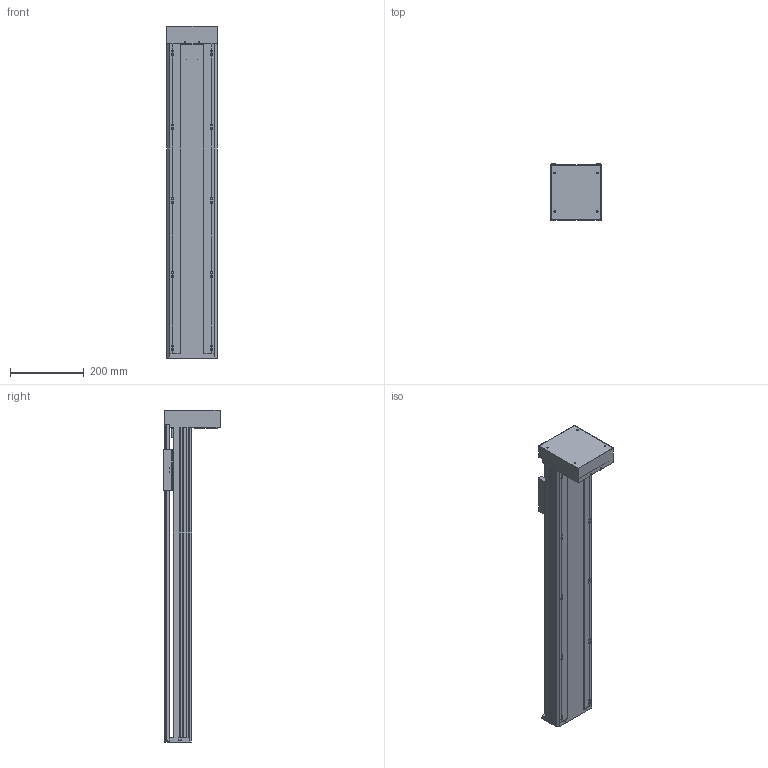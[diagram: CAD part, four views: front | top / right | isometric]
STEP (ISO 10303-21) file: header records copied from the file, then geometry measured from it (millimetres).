
FILE_DESCRIPTION(/* description */ (''),/* implementation_level */ '2;1');
FILE_NAME(/* name */ 'TKA136-FD-650_asm1.stp',/* time_stamp */ '2016-05-07T09:32:43+08:00',/* author */ (''),/* organization */ (''),/* preprocessor_version */ 'ST-DEVELOPER v15',/* originating_system */ 'SIEMENS PLM Software NX 8.5',/* authorisation */ '');
FILE_SCHEMA (('AUTOMOTIVE_DESIGN { 1 0 10303 214 3 1 1 1 }'));
Length unit declared in the file: millimetre
Products named in the file (3): 100-02; 100-01; TKA136-FD-650_asm1
Assembly tree (2 placements, depth 2):
  TKA136-FD-650_asm1
    100-01
    100-02
Bounding box: 136 x 152 x 900 mm (x, y, z)
Volume: 2908538.6 mm3; surface area: 1128474.2 mm2
Topology: 2 solids, 13 shells, 928 faces, 2585 edges, 1665 vertices
Faces by surface type: cylinder 441, plane 422, cone 65
Full cylindrical faces by diameter (mm): 3 x2, 3.3 x13, 4 x4, 4.2 x8, 4.5 x14, 5 x10, 5.5 x26, 6.6 x14, 8 x12, 10 x9, 10.5 x10, 11 x4, 11.6 x1, 12 x9, 15 x3, 16 x5, 17 x1, 24 x5, 26 x1, 28 x1, 46 x1, 50 x2
Entity records: 31098 total; most frequent: CARTESIAN_POINT 8042, DIRECTION 4840, ORIENTED_EDGE 4542, EDGE_CURVE 2271, AXIS2_PLACEMENT_3D 1831, VERTEX_POINT 1576, EDGE_LOOP 1308, LINE 1178
